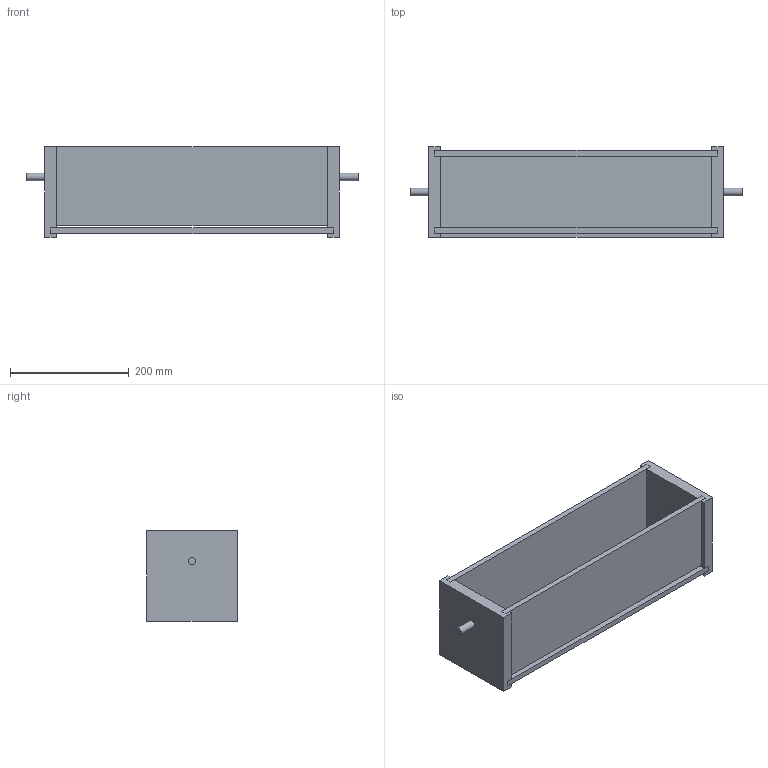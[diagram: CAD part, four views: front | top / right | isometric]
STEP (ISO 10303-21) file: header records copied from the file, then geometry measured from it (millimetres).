
FILE_DESCRIPTION(/* description */ (''),/* implementation_level */ '2;1');
FILE_NAME(/* name */ 'C:/Users/ramar/Desktop/asofij/Buckets v2.step',/* time_stamp */ '2021-02-07T11:44:20-06:00',/* author */ (''),/* organization */ (''),/* preprocessor_version */ 'ST-DEVELOPER v18.1',/* originating_system */ 'Autodesk Translation Framework v9.7.1.1290',/* authorisation */ '');
FILE_SCHEMA (('AUTOMOTIVE_DESIGN { 1 0 10303 214 3 1 1 }'));
Length unit declared in the file: inch
Products named in the file (1): Buckets
Bounding box: 558.8 x 152.4 x 152.4 mm (x, y, z)
Volume: 2668745.3 mm3; surface area: 565335.9 mm2
Topology: 7 solids, 7 shells, 62 faces, 144 edges, 96 vertices
Faces by surface type: plane 58, cylinder 4
Full cylindrical faces by diameter (mm): 12.7 x4
Entity records: 1773 total; most frequent: CARTESIAN_POINT 303, ORIENTED_EDGE 288, DIRECTION 278, EDGE_CURVE 144, LINE 136, VECTOR 136, VERTEX_POINT 96, AXIS2_PLACEMENT_3D 71
